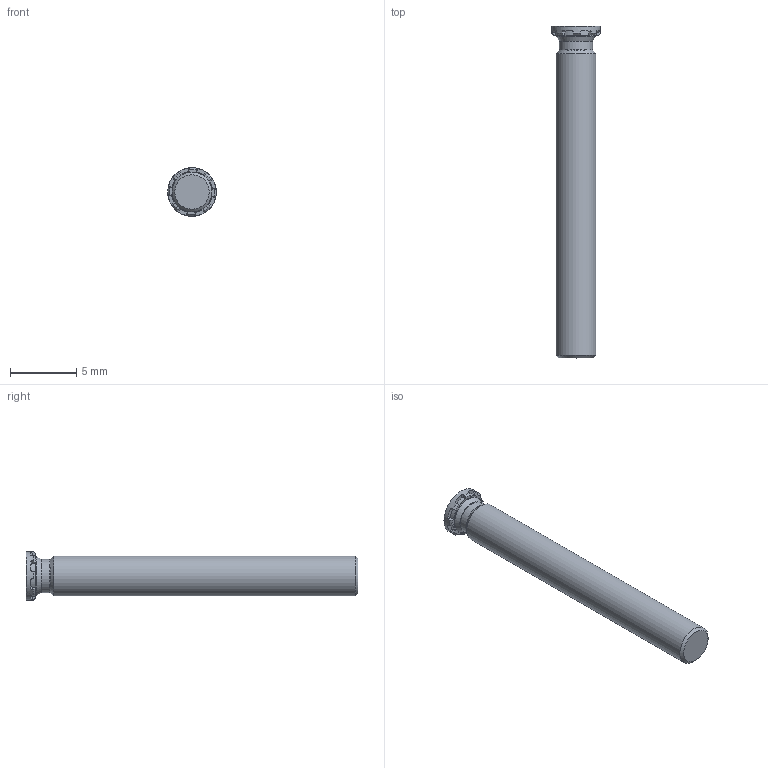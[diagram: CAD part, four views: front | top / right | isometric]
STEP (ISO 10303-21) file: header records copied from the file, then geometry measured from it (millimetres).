
FILE_DESCRIPTION(/* description */ (''),/* implementation_level */ '2;1');
FILE_NAME(/* name */ 'C:\Users\keval.kumar\Desktop\Fastit\Clinch Screw- Reduced FH Range\M3\Clinch Screw-Reduced FH Range_M3x25.stp',/* time_stamp */ '2024-03-12T12:55:11+05:00',/* author */ ('keval.kumar'),/* organization */ (''),/* preprocessor_version */ 'ST-DEVELOPER v18.1',/* originating_system */ 'Autodesk Inventor 2022',/* authorisation */ '');
FILE_SCHEMA (('AUTOMOTIVE_DESIGN { 1 0 10303 214 3 1 1 }'));
Length unit declared in the file: millimetre
Products named in the file (1): Clinch Screw-Reduced FH Range_M3x25
Bounding box: 3.65 x 25 x 3.65 mm (x, y, z)
Volume: 176 mm3; surface area: 257 mm2
Topology: 1 solids, 1 shells, 68 faces, 193 edges, 128 vertices
Faces by surface type: plane 43, cylinder 12, cone 11, torus 2
Full cylindrical faces by diameter (mm): 2.5 x1, 2.9 x1, 3 x1, 3.65 x1
Entity records: 2278 total; most frequent: CARTESIAN_POINT 422, DIRECTION 405, ORIENTED_EDGE 386, EDGE_CURVE 193, AXIS2_PLACEMENT_3D 159, VERTEX_POINT 128, LINE 87, VECTOR 87
